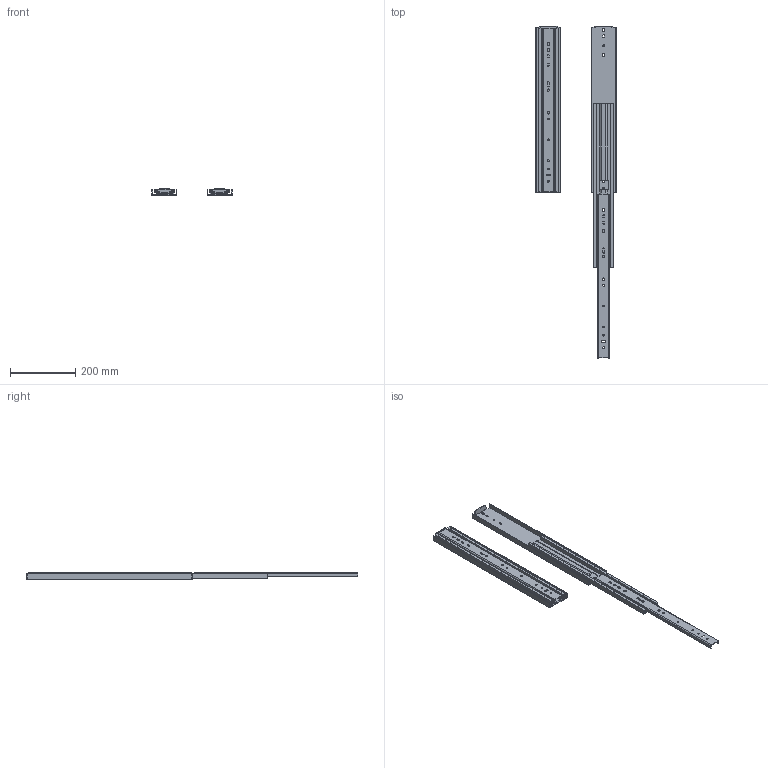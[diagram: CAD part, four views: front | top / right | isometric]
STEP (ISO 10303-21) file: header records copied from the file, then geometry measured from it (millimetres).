
FILE_DESCRIPTION((''),'2;1');
FILE_NAME('ASSEM1_1_2_3_4_5_6_7_ASM','2026-04-07T16:32:27',('T260078'),(''),'CREO PARAMETRIC BY PTC INC, 2025123','CREO PARAMETRIC BY PTC INC, 2025123','');
FILE_SCHEMA(('CONFIG_CONTROL_DESIGN','SHAPE_APPEARANCE_LAYERS_GROUPS'));
Length unit declared in the file: millimetre
Products named in the file (6): 76J01-20_X2_540B_X0_-M; 76J01-20_X2_540B_X0_-I; 76J01-20_X2_540B_X0_-O; 76J01-20_X2_540_X0__ASM; 76J01-20_X2_540B_X0_-_X2_5C5595_ASM; ASSEM1_1_2_3_4_5_6_7_ASM
Assembly tree (8 placements, depth 3):
  ASSEM1_1_2_3_4_5_6_7_ASM
    76J01-20_X2_540_X0__ASM
      76J01-20_X2_540B_X0_-M
      76J01-20_X2_540B_X0_-I
      76J01-20_X2_540B_X0_-O
    76J01-20_X2_540B_X0_-_X2_5C5595_ASM
      76J01-20_X2_540B_X0_-M
      76J01-20_X2_540B_X0_-I
      76J01-20_X2_540B_X0_-O
Bounding box: 245.44 x 1016 x 19.3 mm (x, y, z)
Volume: 617461.4 mm3; surface area: 553966.7 mm2
Topology: 6 solids, 6 shells, 388 faces, 1234 edges, 846 vertices
Faces by surface type: plane 200, cylinder 188
Entity records: 8398 total; most frequent: CARTESIAN_POINT 1282, DIRECTION 1252, ORIENTED_EDGE 1234, EDGE_CURVE 617, AXIS2_PLACEMENT_3D 430, VERTEX_POINT 423, VECTOR 392, LINE 392
